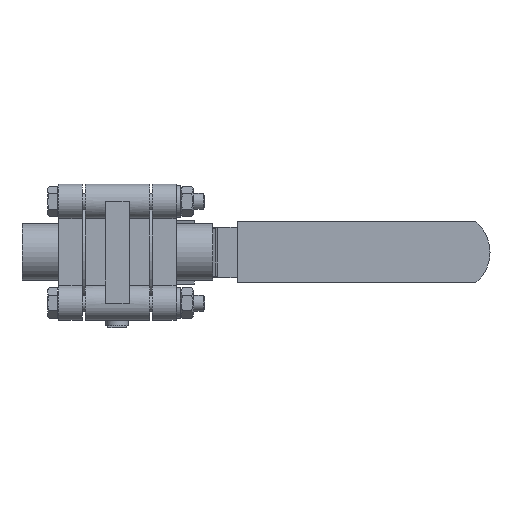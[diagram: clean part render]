
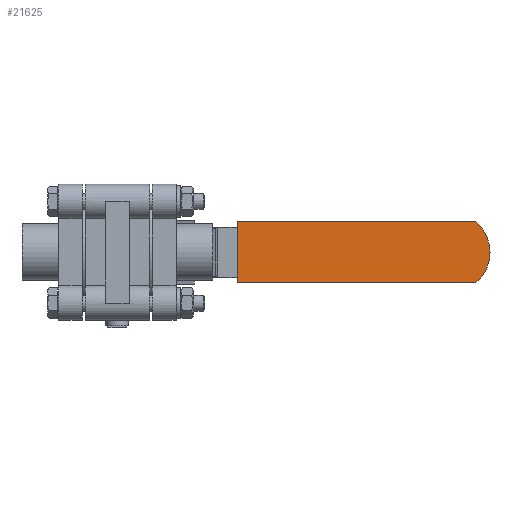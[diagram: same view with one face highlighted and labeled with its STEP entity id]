
A CAD part, front view. The second image highlights one B-rep face of the part: STEP entity #21625.
In plain terms, the highlighted planar face has unit normal (0, -1, 0).
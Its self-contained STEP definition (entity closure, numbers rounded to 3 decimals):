
#1112=PLANE('',#22959);
#3020=FACE_OUTER_BOUND('',#4209,.T.);
#4209=EDGE_LOOP('',(#15817,#15818,#15819,#15820));
#5502=CIRCLE('',#22957,15.);
#6392=LINE('',#30700,#8251);
#6394=LINE('',#30704,#8253);
#6395=LINE('',#30705,#8254);
#8251=VECTOR('',#25285,10.);
#8253=VECTOR('',#25289,10.);
#8254=VECTOR('',#25290,10.);
#10143=VERTEX_POINT('',#30693);
#10144=VERTEX_POINT('',#30694);
#10145=VERTEX_POINT('',#30699);
#10146=VERTEX_POINT('',#30703);
#12333=EDGE_CURVE('',#10143,#10144,#5502,.T.);
#12336=EDGE_CURVE('',#10145,#10143,#6392,.T.);
#12338=EDGE_CURVE('',#10146,#10144,#6394,.T.);
#12339=EDGE_CURVE('',#10145,#10146,#6395,.T.);
#15817=ORIENTED_EDGE('',*,*,#12333,.T.);
#15818=ORIENTED_EDGE('',*,*,#12338,.F.);
#15819=ORIENTED_EDGE('',*,*,#12339,.F.);
#15820=ORIENTED_EDGE('',*,*,#12336,.T.);
#21625=ADVANCED_FACE('',(#3020),#1112,.T.);
#22957=AXIS2_PLACEMENT_3D('',#30695,#25279,#25280);
#22959=AXIS2_PLACEMENT_3D('',#30702,#25287,#25288);
#25279=DIRECTION('center_axis',(0.,-1.,0.));
#25280=DIRECTION('ref_axis',(0.642,0.,0.767));
#25285=DIRECTION('',(1.,0.,0.));
#25287=DIRECTION('center_axis',(0.,-1.,0.));
#25288=DIRECTION('ref_axis',(0.,0.,
-1.));
#25289=DIRECTION('',(1.,0.,0.));
#25290=DIRECTION('',(0.,0.,1.));
#30693=CARTESIAN_POINT('',(103.712,182.924,-10.5));
#30694=CARTESIAN_POINT('',(103.712,182.924,12.5));
#30695=CARTESIAN_POINT('Origin',(94.081,182.924,1.));
#30699=CARTESIAN_POINT('',(14.081,182.924,-10.5));
#30700=CARTESIAN_POINT('',(14.081,182.924,-10.5));
#30702=CARTESIAN_POINT('Origin',(14.081,182.924,12.5));
#30703=CARTESIAN_POINT('',(14.081,182.924,12.5));
#30704=CARTESIAN_POINT('',(14.081,182.924,12.5));
#30705=CARTESIAN_POINT('',(14.081,182.924,-10.5));
